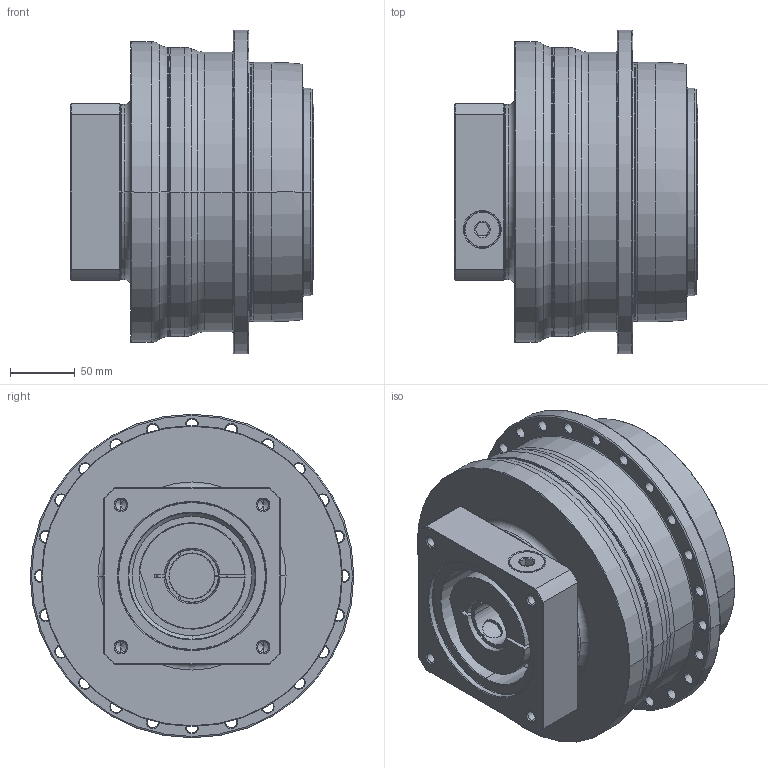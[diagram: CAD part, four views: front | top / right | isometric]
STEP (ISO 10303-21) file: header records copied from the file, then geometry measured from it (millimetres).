
FILE_DESCRIPTION((''),'2;1');
FILE_NAME('AP200_1ST_35-P0409800201_ASM','2018-05-25T',('d01226'),(''),'PRO/ENGINEER BY PARAMETRIC TECHNOLOGY CORPORATION, 2008410','PRO/ENGINEER BY PARAMETRIC TECHNOLOGY CORPORATION, 2008410','');
FILE_SCHEMA(('CONFIG_CONTROL_DESIGN'));
Length unit declared in the file: millimetre
Products named in the file (9): P0278601003; P0359601103; P1318610101; P0503800012; P0912601001; P1211600001; P0409800201; 21711422019; AP200_1ST_35-P0409800201_ASM
Assembly tree (8 placements, depth 2):
  AP200_1ST_35-P0409800201_ASM
    P0278601003
    P0359601103
    P1318610101
    P0503800012
    P0912601001
    P1211600001
    P0409800201
    21711422019
Bounding box: 187.5 x 249.5 x 249.5 mm (x, y, z)
Volume: 5294631.3 mm3; surface area: 508297.2 mm2
Topology: 9 solids, 34 shells, 647 faces, 1547 edges, 956 vertices
Faces by surface type: cylinder 272, cone 180, plane 109, torus 72, bspline 14
Entity records: 23856 total; most frequent: CARTESIAN_POINT 8028, DIRECTION 3639, ORIENTED_EDGE 2976, AXIS2_PLACEMENT_3D 1561, EDGE_CURVE 1539, VERTEX_POINT 956, CIRCLE 901, EDGE_LOOP 789
